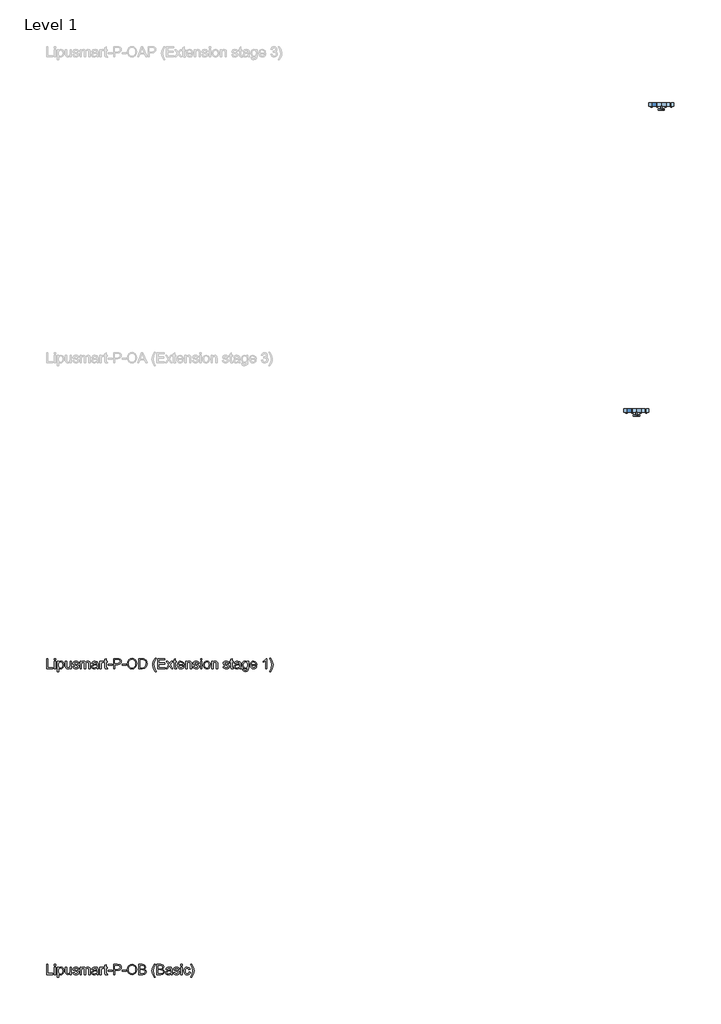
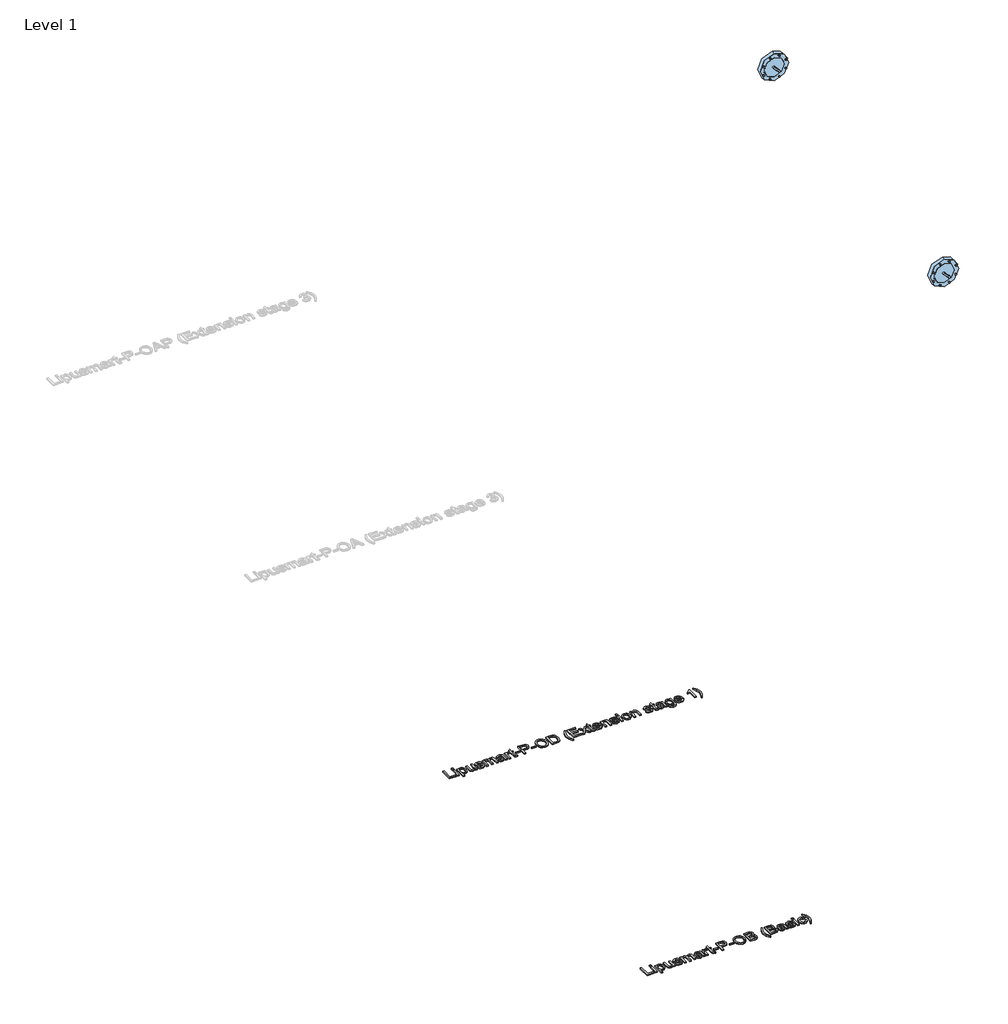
# One storey, part 1 of 3: 2 proxies, 2 windows.
"""IFC4 building model written with IfcOpenShell, lengths in millimetres."""

from ifc_helpers import new_model, si_unit, origin, origin_with_axes, place, context, project, spatial, polyline, outline, extrude, transform, mapped, element, save
from components import std_43f00bc0

model = new_model("IFC4")

# Units and contexts
model_context = context("Model", 3, world=origin())
ifc_project = project(units=[si_unit("LENGTHUNIT", "METRE", prefix="MILLI")], contexts=[model_context])

# Site, building, storey
site = spatial("IfcSite", under=ifc_project)
building = spatial("IfcBuilding", under=site)
storey = spatial("IfcBuildingStorey", under=building, Name="Level 1", Elevation=0.0)

# Proxies
placement = place(None, origin())
element("IfcBuildingElementProxy", 1, Name="100mm ACO", ObjectType="100mm ACO", at=placement, inside=storey, context=model_context, shape_type="SweptSolid", body=[
    extrude(outline(polyline([(-4134.7103315, 850.0), (-4197.6732944, 850.0), (-4197.6732944, 950.0), (-4184.7103315, 950.0), (-4184.7103315, 861.1111111), (-4134.7103315, 861.1111111), (-4134.7103315, 850.0)])), origin_with_axes(), (0.0, 0.0, 1.0), 10.0),
    extrude(outline(polyline([(-4108.7844056, 850.0), (-4121.7473685, 850.0), (-4121.7473685, 922.2222222), (-4108.7844056, 922.2222222), (-4108.7844056, 850.0)])), origin_with_axes(), (0.0, 0.0, 1.0), 10.0),
    extrude(outline(polyline([(-4108.7844056, 937.037037), (-4121.7473685, 937.037037), (-4121.7473685, 950.0), (-4108.7844056, 950.0), (-4108.7844056, 937.037037)])), origin_with_axes(), (0.0, 0.0, 1.0), 10.0),
    extrude(outline(polyline([(-4077.1727157, 913.5127315), (-4068.7164079, 921.4337384), (-4057.0482944, 924.0740741), (-4044.7219056, 921.484375), (-4035.2890352, 913.7152778), (-4029.2994519, 901.7867477), (-4027.3029241, 886.71875), (-4029.5598685, 870.8297164), (-4036.3307019, 858.5792824), (-4046.3856787, 850.7559317), (-4058.4950537, 848.1481481), (-4068.8683176, 850.2748843), (-4076.9557019, 856.6550926), (-4077.3029241, 822.2222222), (-4090.265887, 822.2222222), (-4090.265887, 922.2222222), (-4077.3029241, 922.2222222), (-4077.1727157, 913.5127315)]), holes=[polyline([(-4059.9128778, 857.4074074), (-4052.1401637, 859.233941), (-4045.8359102, 864.7135417), (-4041.6583928, 873.8100405), (-4040.265887, 886.4872685), (-4041.6077562, 898.5640914), (-4045.6333639, 907.4797454), (-4051.7495387, 912.9810475), (-4059.3631093, 914.8148148), (-4067.2443303, 912.7712674), (-4073.5847528, 906.640625), (-4077.7622701, 897.2547743), (-4079.1547759, 885.4456019), (-4077.8201405, 873.33261), (-4073.8162343, 864.5399306), (-4067.6711243, 859.1905382), (-4059.9128778, 857.4074074)])]), origin_with_axes(), (0.0, 0.0, 1.0), 10.0),
    extrude(outline(polyline([(-3953.22885, 850.0), (-3964.3399611, 850.0), (-3964.3399611, 860.5034722), (-3974.5830167, 851.2369792), (-3987.5459796, 848.1481481), (-4001.66635, 851.6637731), (-4010.3179704, 861.3425926), (-4012.4881093, 877.34375), (-4012.4881093, 922.2222222), (-3999.5251463, 922.2222222), (-3999.5251463, 881.25), (-3998.6281556, 867.1585648), (-3993.9406556, 860.15625), (-3984.9128778, 857.4074074), (-3972.1669287, 862.3263889), (-3967.6855919, 869.8784722), (-3966.191813, 882.6967593), (-3966.191813, 922.2222222), (-3953.22885, 922.2222222), (-3953.22885, 850.0)])), origin_with_axes(), (0.0, 0.0, 1.0), 10.0),
    extrude(outline(polyline([(-3893.9695907, 901.8518519), (-3898.7583639, 911.5740741), (-3909.8260722, 914.8148148), (-3921.1397296, 912.037037), (-3925.4510722, 903.9641204), (-3922.6009565, 896.8171296), (-3909.160563, 892.9398148), (-3891.437762, 888.7731481), (-3882.3955167, 882.4508102), (-3879.1547759, 871.1226852), (-3881.1657713, 862.1925637), (-3887.1987574, 854.7887731), (-3896.5954588, 849.8083044), (-3908.6976, 848.1481481), (-3921.1722817, 849.5442708), (-3930.5870676, 853.7326389), (-3936.9491914, 860.7060185), (-3940.265887, 870.4571759), (-3927.3029241, 872.2222222), (-3921.7039657, 861.0966435), (-3908.6976, 857.4074074), (-3896.4001463, 861.2413194), (-3892.1177389, 870.5729167), (-3894.0419287, 876.5480324), (-3898.8451694, 879.9189815), (-3912.4302389, 882.8125), (-3933.3648454, 890.625), (-3938.4140352, 903.2118056), (-3936.5440988, 911.4981192), (-3930.9342898, 918.1857639), (-3922.1633118, 922.6019965), (-3910.8098685, 924.0740741), (-3898.8777215, 922.7864583), (-3889.9331324, 918.9236111), (-3883.9761012, 912.4927662), (-3881.0066278, 903.5011574), (-3893.9695907, 901.8518519)])), origin_with_axes(), (0.0, 0.0, 1.0), 10.0),
    extrude(outline(polyline([(-3769.8955167, 850.0), (-3782.8584796, 850.0), (-3782.8584796, 896.7013889), (-3783.5095213, 905.5121528), (-3786.894938, 911.9936343), (-3795.41635, 914.8148148), (-3807.4244519, 909.6643519), (-3811.2221949, 902.9079861), (-3812.4881093, 892.9398148), (-3812.4881093, 850.0), (-3825.4510722, 850.0), (-3825.4510722, 898.0902778), (-3828.6339426, 911.255787), (-3837.6617204, 914.8148148), (-3850.1906556, 909.2447917), (-3853.8581903, 901.2478299), (-3855.0807019, 888.3969907), (-3855.0807019, 850.0), (-3868.0436648, 850.0), (-3868.0436648, 922.2222222), (-3856.9325537, 922.2222222), (-3856.9325537, 912.3263889), (-3847.5503199, 921.1371528), (-3834.9996833, 924.0740741), (-3821.8197065, 920.9056713), (-3814.3399611, 911.3715278), (-3804.8202852, 920.8984375), (-3792.2334796, 924.0740741), (-3782.4606208, 922.5549769), (-3775.4800074, 917.9976852), (-3771.2916394, 910.4021991), (-3769.8955167, 899.7685185), (-3769.8955167, 850.0)])), origin_with_axes(), (0.0, 0.0, 1.0), 10.0),
    extrude(outline(polyline([(-3688.4140352, 850.0), (-3701.3769981, 850.0), (-3705.0807019, 858.7384259), (-3717.5734681, 850.7957176), (-3731.035563, 848.1481481), (-3741.0218187, 849.5949074), (-3748.6426231, 853.9351852), (-3753.4711822, 860.6481481), (-3755.0807019, 869.212963), (-3753.5037343, 877.520978), (-3748.7728315, 884.2158565), (-3740.1429125, 889.1095197), (-3726.8688963, 892.0138889), (-3715.5263037, 893.75), (-3705.0807019, 896.2962963), (-3705.4134565, 904.3258102), (-3707.3521139, 909.2013889), (-3712.5170444, 913.2667824), (-3722.0945907, 914.8148148), (-3734.1750306, 911.6753472), (-3740.265887, 900.0), (-3753.22885, 901.5914352), (-3749.6734391, 911.400463), (-3743.000262, 918.431713), (-3733.2165525, 922.6634838), (-3720.3295444, 924.0740741), (-3701.0731787, 920.2112269), (-3693.5210954, 910.8940972), (-3692.1177389, 896.8460648), (-3692.1177389, 880.3240741), (-3691.5679704, 860.0694444), (-3688.4140352, 850.0)]), holes=[polyline([(-3705.0807019, 882.4074074), (-3705.0807019, 887.037037), (-3728.3590583, 881.712963), (-3738.6780687, 877.6548032), (-3742.1177389, 869.4155093), (-3738.4140352, 860.7928241), (-3727.7369519, 857.4074074), (-3711.9238731, 863.0787037), (-3706.7914947, 870.7465278), (-3705.0807019, 882.4074074)])]), origin_with_axes(), (0.0, 0.0, 1.0), 10.0),
    extrude(outline(polyline([(-3634.7103315, 921.2384259), (-3638.7612574, 912.962963), (-3647.2682019, 914.8148148), (-3653.0624727, 913.1872106), (-3657.2508407, 908.3043981), (-3660.6362574, 890.0752315), (-3660.6362574, 850.0), (-3673.5992204, 850.0), (-3673.5992204, 922.2222222), (-3662.4881093, 922.2222222), (-3662.4881093, 911.5162037), (-3655.5581324, 920.9346065), (-3647.1235259, 924.0740741), (-3634.7103315, 921.2384259)])), origin_with_axes(), (0.0, 0.0, 1.0), 10.0),
    extrude(outline(polyline([(-3599.5251463, 848.9872685), (-3608.6107944, 848.1481481), (-3620.1993361, 851.0271991), (-3624.640887, 858.3333333), (-3625.4510722, 870.6597222), (-3625.4510722, 912.962963), (-3634.7103315, 912.962963), (-3634.7103315, 922.2222222), (-3625.4510722, 922.2222222), (-3625.4510722, 940.5671296), (-3612.4881093, 948.1481481), (-3612.4881093, 922.2222222), (-3601.3769981, 922.2222222), (-3601.3769981, 912.962963), (-3612.4881093, 912.962963), (-3612.4881093, 868.0555556), (-3611.4464426, 859.837963), (-3606.1513037, 857.4074074), (-3601.1165815, 857.4074074), (-3599.5251463, 848.9872685)])), origin_with_axes(), (0.0, 0.0, 1.0), 10.0),
    extrude(outline(polyline([(-3555.0807019, 883.3333333), (-3593.9695907, 883.3333333), (-3593.9695907, 892.5925926), (-3555.0807019, 892.5925926), (-3555.0807019, 883.3333333)])), origin_with_axes(), (0.0, 0.0, 1.0), 10.0),
    extrude(outline(polyline([(-3540.265887, 950.0), (-3502.7080167, 950.0), (-3487.4013037, 949.1174769), (-3475.4800074, 944.53125), (-3467.1611417, 934.4762731), (-3464.3399611, 921.1805556), (-3466.5643535, 908.7492766), (-3473.2375306, 899.0596065), (-3484.8152215, 892.8204572), (-3501.7531556, 890.7407407), (-3527.3029241, 890.7407407), (-3527.3029241, 850.0), (-3540.265887, 850.0), (-3540.265887, 950.0)]), holes=[polyline([(-3527.3029241, 901.8518519), (-3501.2323222, 901.8518519), (-3483.2852736, 906.5899884), (-3478.7985115, 912.5126591), (-3477.3029241, 920.8043981), (-3480.4134565, 931.7853009), (-3488.0523454, 937.7170139), (-3501.5216741, 938.8888889), (-3527.3029241, 938.8888889), (-3527.3029241, 901.8518519)])]), origin_with_axes(), (0.0, 0.0, 1.0), 10.0),
    extrude(outline(polyline([(-3416.191813, 883.3333333), (-3455.0807019, 883.3333333), (-3455.0807019, 892.5925926), (-3416.191813, 892.5925926), (-3416.191813, 883.3333333)])), origin_with_axes(), (0.0, 0.0, 1.0), 10.0),
    extrude(outline(polyline([(-3358.6976, 951.8518519), (-3340.2080167, 948.2783565), (-3325.422137, 937.5578704), (-3315.7216162, 920.9852431), (-3312.4881093, 899.8553241), (-3315.7397007, 878.8158275), (-3325.494475, 862.3408565), (-3340.2984391, 851.6963252), (-3358.6976, 848.1481481), (-3377.5705745, 851.8265336), (-3392.3492204, 862.8616898), (-3401.8978315, 879.191985), (-3405.0807019, 898.755787), (-3401.8544287, 920.8369502), (-3392.1756093, 937.6591435), (-3377.3535606, 948.3036748), (-3358.6976, 951.8518519)]), holes=[polyline([(-3358.8133407, 859.2592593), (-3345.3729472, 861.9429977), (-3334.7392667, 869.994213), (-3327.802056, 882.8269676), (-3325.4510722, 899.8553241), (-3327.8056729, 917.2634549), (-3334.869475, 930.1359954), (-3345.4995387, 938.0895544), (-3358.5529241, 940.7407407), (-3371.8992782, 938.1438079), (-3382.6559333, 930.3530093), (-3389.7522875, 917.1947338), (-3392.1177389, 898.4953704), (-3389.8029241, 882.6135706), (-3382.8584796, 870.0954861), (-3372.2175653, 861.968316), (-3358.8133407, 859.2592593)])]), origin_with_axes(), (0.0, 0.0, 1.0), 10.0),
    extrude(outline(polyline([(-3239.1952852, 902.806713), (-3224.6987574, 893.5763889), (-3219.8955167, 878.8483796), (-3224.0332481, 863.5416667), (-3235.7954009, 853.2841435), (-3256.4695907, 850.0), (-3293.9695907, 850.0), (-3293.9695907, 950.0), (-3257.598063, 950.0), (-3242.5481498, 948.0034722), (-3232.6993361, 942.0138889), (-3227.2631382, 933.5865162), (-3225.4510722, 924.2766204), (-3228.8654241, 912.0659722), (-3239.1952852, 902.806713)]), holes=[polyline([(-3281.0066278, 907.4074074), (-3260.2022296, 907.4074074), (-3249.4383407, 908.1886574), (-3241.7560491, 912.3408565), (-3238.4140352, 922.8009259), (-3241.7849843, 933.7818287), (-3249.8289657, 938.1076389), (-3261.8226, 938.8888889), (-3281.0066278, 938.8888889), (-3281.0066278, 907.4074074)]), polyline([(-3281.0066278, 861.1111111), (-3256.35385, 861.1111111), (-3245.1523164, 862.2793692), (-3237.994475, 865.7841435), (-3232.8584796, 878.7037037), (-3234.2256671, 886.0930266), (-3238.3272296, 891.6521991), (-3245.9950537, 895.135272), (-3258.0610259, 896.2962963), (-3281.0066278, 896.2962963), (-3281.0066278, 861.1111111)])]), origin_with_axes(), (0.0, 0.0, 1.0), 10.0),
    extrude(outline(polyline([(-3130.7751463, 822.2222222), (-3140.0344056, 822.2222222), (-3157.8584796, 853.4577546), (-3164.3399611, 887.0081019), (-3162.6147007, 905.1468461), (-3157.4389194, 921.947338), (-3140.0344056, 951.8518519), (-3130.7751463, 951.8518519), (-3147.2103315, 917.3032407), (-3151.3769981, 887.1238426), (-3146.2265352, 854.6079282), (-3130.7751463, 822.2222222)])), origin_with_axes(), (0.0, 0.0, 1.0), 10.0),
    extrude(outline(polyline([(-3061.4175074, 902.806713), (-3046.9209796, 893.5763889), (-3042.1177389, 878.8483796), (-3046.2554704, 863.5416667), (-3058.0176231, 853.2841435), (-3078.691813, 850.0), (-3116.191813, 850.0), (-3116.191813, 950.0), (-3079.8202852, 950.0), (-3064.770372, 948.0034722), (-3054.9215583, 942.0138889), (-3049.4853604, 933.5865162), (-3047.6732944, 924.2766204), (-3051.0876463, 912.0659722), (-3061.4175074, 902.806713)]), holes=[polyline([(-3103.22885, 861.1111111), (-3078.5760722, 861.1111111), (-3067.3745387, 862.2793692), (-3060.2166972, 865.7841435), (-3055.0807019, 878.7037037), (-3056.4478894, 886.0930266), (-3060.5494519, 891.6521991), (-3068.2172759, 895.135272), (-3080.2832481, 896.2962963), (-3103.22885, 896.2962963), (-3103.22885, 861.1111111)]), polyline([(-3103.22885, 907.4074074), (-3082.4244519, 907.4074074), (-3071.660563, 908.1886574), (-3063.9782713, 912.3408565), (-3060.6362574, 922.8009259), (-3064.0072065, 933.7818287), (-3072.051188, 938.1076389), (-3084.0448222, 938.8888889), (-3103.22885, 938.8888889), (-3103.22885, 907.4074074)])]), origin_with_axes(), (0.0, 0.0, 1.0), 10.0),
    extrude(outline(polyline([(-2962.4881093, 850.0), (-2975.4510722, 850.0), (-2979.1547759, 858.7384259), (-2991.6475421, 850.7957176), (-3005.109637, 848.1481481), (-3015.0958928, 849.5949074), (-3022.7166972, 853.9351852), (-3027.5452562, 860.6481481), (-3029.1547759, 869.212963), (-3027.5778083, 877.520978), (-3022.8469056, 884.2158565), (-3014.2169866, 889.1095197), (-3000.9429704, 892.0138889), (-2989.6003778, 893.75), (-2979.1547759, 896.2962963), (-2979.4875306, 904.3258102), (-2981.426188, 909.2013889), (-2986.5911185, 913.2667824), (-2996.1686648, 914.8148148), (-3008.2491046, 911.6753472), (-3014.3399611, 900.0), (-3027.3029241, 901.5914352), (-3023.7475132, 911.400463), (-3017.0743361, 918.431713), (-3007.2906266, 922.6634838), (-2994.4036185, 924.0740741), (-2975.1472528, 920.2112269), (-2967.5951694, 910.8940972), (-2966.191813, 896.8460648), (-2966.191813, 880.3240741), (-2965.6420444, 860.0694444), (-2962.4881093, 850.0)]), holes=[polyline([(-2979.1547759, 882.4074074), (-2979.1547759, 887.037037), (-3002.4331324, 881.712963), (-3012.7521428, 877.6548032), (-3016.191813, 869.4155093), (-3012.4881093, 860.7928241), (-3001.8110259, 857.4074074), (-2985.9979472, 863.0787037), (-2980.8655687, 870.7465278), (-2979.1547759, 882.4074074)])]), origin_with_axes(), (0.0, 0.0, 1.0), 10.0),
    extrude(outline(polyline([(-2906.9325537, 901.8518519), (-2911.7213269, 911.5740741), (-2922.7890352, 914.8148148), (-2934.1026926, 912.037037), (-2938.4140352, 903.9641204), (-2935.5639194, 896.8171296), (-2922.1235259, 892.9398148), (-2904.400725, 888.7731481), (-2895.3584796, 882.4508102), (-2892.1177389, 871.1226852), (-2894.1287343, 862.1925637), (-2900.1617204, 854.7887731), (-2909.5584218, 849.8083044), (-2921.660563, 848.1481481), (-2934.1352447, 849.5442708), (-2943.5500306, 853.7326389), (-2949.9121544, 860.7060185), (-2953.22885, 870.4571759), (-2940.265887, 872.2222222), (-2934.6669287, 861.0966435), (-2921.660563, 857.4074074), (-2909.3631093, 861.2413194), (-2905.0807019, 870.5729167), (-2907.0048917, 876.5480324), (-2911.8081324, 879.9189815), (-2925.3932019, 882.8125), (-2946.3278083, 890.625), (-2951.3769981, 903.2118056), (-2949.5070618, 911.4981192), (-2943.8972528, 918.1857639), (-2935.1262748, 922.6019965), (-2923.7728315, 924.0740741), (-2911.8406845, 922.7864583), (-2902.8960954, 918.9236111), (-2896.9390641, 912.4927662), (-2893.9695907, 903.5011574), (-2906.9325537, 901.8518519)])), origin_with_axes(), (0.0, 0.0, 1.0), 10.0),
    extrude(outline(polyline([(-2866.191813, 937.037037), (-2879.1547759, 937.037037), (-2879.1547759, 950.0), (-2866.191813, 950.0), (-2866.191813, 937.037037)])), origin_with_axes(), (0.0, 0.0, 1.0), 10.0),
    extrude(outline(polyline([(-2866.191813, 850.0), (-2879.1547759, 850.0), (-2879.1547759, 922.2222222), (-2866.191813, 922.2222222), (-2866.191813, 850.0)])), origin_with_axes(), (0.0, 0.0, 1.0), 10.0),
    extrude(outline(polyline([(-2786.5621833, 874.4502315), (-2790.5914079, 862.6446759), (-2797.7601, 854.4849537), (-2807.0844634, 849.7323495), (-2817.5807019, 848.1481481), (-2831.8963847, 850.7378472), (-2842.5517667, 858.5069444), (-2849.1706903, 870.5512153), (-2851.3769981, 885.9664352), (-2846.3422759, 908.6516204), (-2833.7410028, 920.6163194), (-2817.8411185, 924.0740741), (-2798.3822065, 918.4172454), (-2791.8464715, 911.433015), (-2788.4140352, 901.7939815), (-2801.3769981, 900.0), (-2807.2797759, 911.0966435), (-2817.6964426, 914.8148148), (-2826.6518824, 912.9304109), (-2833.1478315, 907.2771991), (-2837.0974843, 898.2458044), (-2838.4140352, 886.2268519), (-2837.0938674, 873.9981192), (-2833.1333639, 864.916088), (-2826.6844345, 859.2845775), (-2817.8989889, 857.4074074), (-2805.2977157, 862.037037), (-2799.5251463, 875.9259259), (-2786.5621833, 874.4502315)])), origin_with_axes(), (0.0, 0.0, 1.0), 10.0),
    extrude(outline(polyline([(-2775.6825537, 951.8518519), (-2757.8584796, 920.6163194), (-2751.3769981, 887.0081019), (-2753.1022586, 868.9127604), (-2758.2780398, 852.1267361), (-2775.6825537, 822.2222222), (-2784.941813, 822.2222222), (-2768.5066278, 856.7418981), (-2764.3399611, 886.8634259), (-2769.4904241, 919.4444444), (-2784.941813, 951.8518519), (-2775.6825537, 951.8518519)])), origin_with_axes(), (0.0, 0.0, 1.0), 10.0),
])
element("IfcBuildingElementProxy", 2, Name="100mm ACO", ObjectType="100mm ACO", at=placement, inside=storey, context=model_context, shape_type="SweptSolid", body=[
    extrude(outline(polyline([(-4134.7103315, 3850.0), (-4197.6732944, 3850.0), (-4197.6732944, 3950.0), (-4184.7103315, 3950.0), (-4184.7103315, 3861.1111111), (-4134.7103315, 3861.1111111), (-4134.7103315, 3850.0)])), origin_with_axes(), (0.0, 0.0, 1.0), 10.0),
    extrude(outline(polyline([(-4108.7844056, 3850.0), (-4121.7473685, 3850.0), (-4121.7473685, 3922.2222222), (-4108.7844056, 3922.2222222), (-4108.7844056, 3850.0)])), origin_with_axes(), (0.0, 0.0, 1.0), 10.0),
    extrude(outline(polyline([(-4108.7844056, 3937.037037), (-4121.7473685, 3937.037037), (-4121.7473685, 3950.0), (-4108.7844056, 3950.0), (-4108.7844056, 3937.037037)])), origin_with_axes(), (0.0, 0.0, 1.0), 10.0),
    extrude(outline(polyline([(-4077.1727157, 3913.5127315), (-4068.7164079, 3921.4337384), (-4057.0482944, 3924.0740741), (-4044.7219056, 3921.484375), (-4035.2890352, 3913.7152778), (-4029.2994519, 3901.7867477), (-4027.3029241, 3886.71875), (-4029.5598685, 3870.8297164), (-4036.3307019, 3858.5792824), (-4046.3856787, 3850.7559317), (-4058.4950537, 3848.1481481), (-4068.8683176, 3850.2748843), (-4076.9557019, 3856.6550926), (-4077.3029241, 3822.2222222), (-4090.265887, 3822.2222222), (-4090.265887, 3922.2222222), (-4077.3029241, 3922.2222222), (-4077.1727157, 3913.5127315)]), holes=[polyline([(-4059.9128778, 3857.4074074), (-4052.1401637, 3859.233941), (-4045.8359102, 3864.7135417), (-4041.6583928, 3873.8100405), (-4040.265887, 3886.4872685), (-4041.6077562, 3898.5640914), (-4045.6333639, 3907.4797454), (-4051.7495387, 3912.9810475), (-4059.3631093, 3914.8148148), (-4067.2443303, 3912.7712674), (-4073.5847528, 3906.640625), (-4077.7622701, 3897.2547743), (-4079.1547759, 3885.4456019), (-4077.8201405, 3873.33261), (-4073.8162343, 3864.5399306), (-4067.6711243, 3859.1905382), (-4059.9128778, 3857.4074074)])]), origin_with_axes(), (0.0, 0.0, 1.0), 10.0),
    extrude(outline(polyline([(-3953.22885, 3850.0), (-3964.3399611, 3850.0), (-3964.3399611, 3860.5034722), (-3974.5830167, 3851.2369792), (-3987.5459796, 3848.1481481), (-4001.66635, 3851.6637731), (-4010.3179704, 3861.3425926), (-4012.4881093, 3877.34375), (-4012.4881093, 3922.2222222), (-3999.5251463, 3922.2222222), (-3999.5251463, 3881.25), (-3998.6281556, 3867.1585648), (-3993.9406556, 3860.15625), (-3984.9128778, 3857.4074074), (-3972.1669287, 3862.3263889), (-3967.6855919, 3869.8784722), (-3966.191813, 3882.6967593), (-3966.191813, 3922.2222222), (-3953.22885, 3922.2222222), (-3953.22885, 3850.0)])), origin_with_axes(), (0.0, 0.0, 1.0), 10.0),
    extrude(outline(polyline([(-3893.9695907, 3901.8518519), (-3898.7583639, 3911.5740741), (-3909.8260722, 3914.8148148), (-3921.1397296, 3912.037037), (-3925.4510722, 3903.9641204), (-3922.6009565, 3896.8171296), (-3909.160563, 3892.9398148), (-3891.437762, 3888.7731481), (-3882.3955167, 3882.4508102), (-3879.1547759, 3871.1226852), (-3881.1657713, 3862.1925637), (-3887.1987574, 3854.7887731), (-3896.5954588, 3849.8083044), (-3908.6976, 3848.1481481), (-3921.1722817, 3849.5442708), (-3930.5870676, 3853.7326389), (-3936.9491914, 3860.7060185), (-3940.265887, 3870.4571759), (-3927.3029241, 3872.2222222), (-3921.7039657, 3861.0966435), (-3908.6976, 3857.4074074), (-3896.4001463, 3861.2413194), (-3892.1177389, 3870.5729167), (-3894.0419287, 3876.5480324), (-3898.8451694, 3879.9189815), (-3912.4302389, 3882.8125), (-3933.3648454, 3890.625), (-3938.4140352, 3903.2118056), (-3936.5440988, 3911.4981192), (-3930.9342898, 3918.1857639), (-3922.1633118, 3922.6019965), (-3910.8098685, 3924.0740741), (-3898.8777215, 3922.7864583), (-3889.9331324, 3918.9236111), (-3883.9761012, 3912.4927662), (-3881.0066278, 3903.5011574), (-3893.9695907, 3901.8518519)])), origin_with_axes(), (0.0, 0.0, 1.0), 10.0),
    extrude(outline(polyline([(-3769.8955167, 3850.0), (-3782.8584796, 3850.0), (-3782.8584796, 3896.7013889), (-3783.5095213, 3905.5121528), (-3786.894938, 3911.9936343), (-3795.41635, 3914.8148148), (-3807.4244519, 3909.6643519), (-3811.2221949, 3902.9079861), (-3812.4881093, 3892.9398148), (-3812.4881093, 3850.0), (-3825.4510722, 3850.0), (-3825.4510722, 3898.0902778), (-3828.6339426, 3911.255787), (-3837.6617204, 3914.8148148), (-3850.1906556, 3909.2447917), (-3853.8581903, 3901.2478299), (-3855.0807019, 3888.3969907), (-3855.0807019, 3850.0), (-3868.0436648, 3850.0), (-3868.0436648, 3922.2222222), (-3856.9325537, 3922.2222222), (-3856.9325537, 3912.3263889), (-3847.5503199, 3921.1371528), (-3834.9996833, 3924.0740741), (-3821.8197065, 3920.9056713), (-3814.3399611, 3911.3715278), (-3804.8202852, 3920.8984375), (-3792.2334796, 3924.0740741), (-3782.4606208, 3922.5549769), (-3775.4800074, 3917.9976852), (-3771.2916394, 3910.4021991), (-3769.8955167, 3899.7685185), (-3769.8955167, 3850.0)])), origin_with_axes(), (0.0, 0.0, 1.0), 10.0),
    extrude(outline(polyline([(-3688.4140352, 3850.0), (-3701.3769981, 3850.0), (-3705.0807019, 3858.7384259), (-3717.5734681, 3850.7957176), (-3731.035563, 3848.1481481), (-3741.0218187, 3849.5949074), (-3748.6426231, 3853.9351852), (-3753.4711822, 3860.6481481), (-3755.0807019, 3869.212963), (-3753.5037343, 3877.520978), (-3748.7728315, 3884.2158565), (-3740.1429125, 3889.1095197), (-3726.8688963, 3892.0138889), (-3715.5263037, 3893.75), (-3705.0807019, 3896.2962963), (-3705.4134565, 3904.3258102), (-3707.3521139, 3909.2013889), (-3712.5170444, 3913.2667824), (-3722.0945907, 3914.8148148), (-3734.1750306, 3911.6753472), (-3740.265887, 3900.0), (-3753.22885, 3901.5914352), (-3749.6734391, 3911.400463), (-3743.000262, 3918.431713), (-3733.2165525, 3922.6634838), (-3720.3295444, 3924.0740741), (-3701.0731787, 3920.2112269), (-3693.5210954, 3910.8940972), (-3692.1177389, 3896.8460648), (-3692.1177389, 3880.3240741), (-3691.5679704, 3860.0694444), (-3688.4140352, 3850.0)]), holes=[polyline([(-3705.0807019, 3882.4074074), (-3705.0807019, 3887.037037), (-3728.3590583, 3881.712963), (-3738.6780687, 3877.6548032), (-3742.1177389, 3869.4155093), (-3738.4140352, 3860.7928241), (-3727.7369519, 3857.4074074), (-3711.9238731, 3863.0787037), (-3706.7914947, 3870.7465278), (-3705.0807019, 3882.4074074)])]), origin_with_axes(), (0.0, 0.0, 1.0), 10.0),
    extrude(outline(polyline([(-3634.7103315, 3921.2384259), (-3638.7612574, 3912.962963), (-3647.2682019, 3914.8148148), (-3653.0624727, 3913.1872106), (-3657.2508407, 3908.3043981), (-3660.6362574, 3890.0752315), (-3660.6362574, 3850.0), (-3673.5992204, 3850.0), (-3673.5992204, 3922.2222222), (-3662.4881093, 3922.2222222), (-3662.4881093, 3911.5162037), (-3655.5581324, 3920.9346065), (-3647.1235259, 3924.0740741), (-3634.7103315, 3921.2384259)])), origin_with_axes(), (0.0, 0.0, 1.0), 10.0),
    extrude(outline(polyline([(-3599.5251463, 3848.9872685), (-3608.6107944, 3848.1481481), (-3620.1993361, 3851.0271991), (-3624.640887, 3858.3333333), (-3625.4510722, 3870.6597222), (-3625.4510722, 3912.962963), (-3634.7103315, 3912.962963), (-3634.7103315, 3922.2222222), (-3625.4510722, 3922.2222222), (-3625.4510722, 3940.5671296), (-3612.4881093, 3948.1481481), (-3612.4881093, 3922.2222222), (-3601.3769981, 3922.2222222), (-3601.3769981, 3912.962963), (-3612.4881093, 3912.962963), (-3612.4881093, 3868.0555556), (-3611.4464426, 3859.837963), (-3606.1513037, 3857.4074074), (-3601.1165815, 3857.4074074), (-3599.5251463, 3848.9872685)])), origin_with_axes(), (0.0, 0.0, 1.0), 10.0),
    extrude(outline(polyline([(-3555.0807019, 3883.3333333), (-3593.9695907, 3883.3333333), (-3593.9695907, 3892.5925926), (-3555.0807019, 3892.5925926), (-3555.0807019, 3883.3333333)])), origin_with_axes(), (0.0, 0.0, 1.0), 10.0),
    extrude(outline(polyline([(-3540.265887, 3950.0), (-3502.7080167, 3950.0), (-3487.4013037, 3949.1174769), (-3475.4800074, 3944.53125), (-3467.1611417, 3934.4762731), (-3464.3399611, 3921.1805556), (-3466.5643535, 3908.7492766), (-3473.2375306, 3899.0596065), (-3484.8152215, 3892.8204572), (-3501.7531556, 3890.7407407), (-3527.3029241, 3890.7407407), (-3527.3029241, 3850.0), (-3540.265887, 3850.0), (-3540.265887, 3950.0)]), holes=[polyline([(-3527.3029241, 3901.8518519), (-3501.2323222, 3901.8518519), (-3483.2852736, 3906.5899884), (-3478.7985115, 3912.5126591), (-3477.3029241, 3920.8043981), (-3480.4134565, 3931.7853009), (-3488.0523454, 3937.7170139), (-3501.5216741, 3938.8888889), (-3527.3029241, 3938.8888889), (-3527.3029241, 3901.8518519)])]), origin_with_axes(), (0.0, 0.0, 1.0), 10.0),
    extrude(outline(polyline([(-3416.191813, 3883.3333333), (-3455.0807019, 3883.3333333), (-3455.0807019, 3892.5925926), (-3416.191813, 3892.5925926), (-3416.191813, 3883.3333333)])), origin_with_axes(), (0.0, 0.0, 1.0), 10.0),
    extrude(outline(polyline([(-3358.6976, 3951.8518519), (-3340.2080167, 3948.2783565), (-3325.422137, 3937.5578704), (-3315.7216162, 3920.9852431), (-3312.4881093, 3899.8553241), (-3315.7397007, 3878.8158275), (-3325.494475, 3862.3408565), (-3340.2984391, 3851.6963252), (-3358.6976, 3848.1481481), (-3377.5705745, 3851.8265336), (-3392.3492204, 3862.8616898), (-3401.8978315, 3879.191985), (-3405.0807019, 3898.755787), (-3401.8544287, 3920.8369502), (-3392.1756093, 3937.6591435), (-3377.3535606, 3948.3036748), (-3358.6976, 3951.8518519)]), holes=[polyline([(-3358.8133407, 3859.2592593), (-3345.3729472, 3861.9429977), (-3334.7392667, 3869.994213), (-3327.802056, 3882.8269676), (-3325.4510722, 3899.8553241), (-3327.8056729, 3917.2634549), (-3334.869475, 3930.1359954), (-3345.4995387, 3938.0895544), (-3358.5529241, 3940.7407407), (-3371.8992782, 3938.1438079), (-3382.6559333, 3930.3530093), (-3389.7522875, 3917.1947338), (-3392.1177389, 3898.4953704), (-3389.8029241, 3882.6135706), (-3382.8584796, 3870.0954861), (-3372.2175653, 3861.968316), (-3358.8133407, 3859.2592593)])]), origin_with_axes(), (0.0, 0.0, 1.0), 10.0),
    extrude(outline(polyline([(-3293.9695907, 3950.0), (-3259.941813, 3950.0), (-3244.5482944, 3949.0740741), (-3232.2219056, 3944.5746528), (-3221.9354472, 3934.7222222), (-3215.0054704, 3920.2980324), (-3212.4881093, 3900.5497685), (-3215.0778083, 3880.4144965), (-3222.8469056, 3864.2216435), (-3236.9311069, 3853.5554109), (-3258.4661185, 3850.0), (-3293.9695907, 3850.0), (-3293.9695907, 3950.0)]), holes=[polyline([(-3281.0066278, 3861.1111111), (-3259.6813963, 3861.1111111), (-3248.0349843, 3861.9502315), (-3237.6327852, 3866.478588), (-3228.9088269, 3878.5734954), (-3225.4510722, 3900.8391204), (-3226.7820907, 3915.1331019), (-3231.672137, 3927.2424769), (-3239.8463269, 3935.2430556), (-3248.8451694, 3938.3391204), (-3260.0864889, 3938.8888889), (-3281.0066278, 3938.8888889), (-3281.0066278, 3861.1111111)])]), origin_with_axes(), (0.0, 0.0, 1.0), 10.0),
    extrude(outline(polyline([(-3123.3677389, 3822.2222222), (-3132.6269981, 3822.2222222), (-3150.4510722, 3853.4577546), (-3156.9325537, 3887.0081019), (-3155.2072933, 3905.1468461), (-3150.031512, 3921.947338), (-3132.6269981, 3951.8518519), (-3123.3677389, 3951.8518519), (-3139.8029241, 3917.3032407), (-3143.9695907, 3887.1238426), (-3138.8191278, 3854.6079282), (-3123.3677389, 3822.2222222)])), origin_with_axes(), (0.0, 0.0, 1.0), 10.0),
    extrude(outline(polyline([(-3034.7103315, 3850.0), (-3108.7844056, 3850.0), (-3108.7844056, 3950.0), (-3036.5621833, 3950.0), (-3036.5621833, 3938.8888889), (-3095.8214426, 3938.8888889), (-3095.8214426, 3907.4074074), (-3040.265887, 3907.4074074), (-3040.265887, 3896.2962963), (-3095.8214426, 3896.2962963), (-3095.8214426, 3861.1111111), (-3034.7103315, 3861.1111111), (-3034.7103315, 3850.0)])), origin_with_axes(), (0.0, 0.0, 1.0), 10.0),
    extrude(outline(polyline([(-2958.7844056, 3850.0), (-2971.8341741, 3850.0), (-2992.0888037, 3878.2986111), (-3012.3434333, 3850.0), (-3025.4510722, 3850.0), (-2998.6860259, 3887.4131944), (-3023.5992204, 3922.2222222), (-3010.5494519, 3922.2222222), (-2992.1466741, 3896.556713), (-2973.7728315, 3922.2222222), (-2960.6362574, 3922.2222222), (-2985.578387, 3887.3842593), (-2958.7844056, 3850.0)])), origin_with_axes(), (0.0, 0.0, 1.0), 10.0),
    extrude(outline(polyline([(-2921.7473685, 3848.9872685), (-2930.8330167, 3848.1481481), (-2942.4215583, 3851.0271991), (-2946.8631093, 3858.3333333), (-2947.6732944, 3870.6597222), (-2947.6732944, 3912.962963), (-2956.9325537, 3912.962963), (-2956.9325537, 3922.2222222), (-2947.6732944, 3922.2222222), (-2947.6732944, 3940.5671296), (-2934.7103315, 3948.1481481), (-2934.7103315, 3922.2222222), (-2923.5992204, 3922.2222222), (-2923.5992204, 3912.962963), (-2934.7103315, 3912.962963), (-2934.7103315, 3868.0555556), (-2933.6686648, 3859.837963), (-2928.3735259, 3857.4074074), (-2923.3388037, 3857.4074074), (-2921.7473685, 3848.9872685)])), origin_with_axes(), (0.0, 0.0, 1.0), 10.0),
    extrude(outline(polyline([(-2847.6732944, 3883.3333333), (-2901.3769981, 3883.3333333), (-2899.3045155, 3872.2077546), (-2894.5916972, 3864.0625), (-2887.8100132, 3859.0711806), (-2879.5309333, 3857.4074074), (-2867.8555861, 3861.0966435), (-2860.6362574, 3872.2222222), (-2847.6732944, 3870.7175926), (-2852.0497412, 3861.0966435), (-2858.9869519, 3853.9930556), (-2868.2317435, 3849.609375), (-2879.5309333, 3848.1481481), (-2894.1178836, 3850.6546586), (-2905.1241046, 3858.1741898), (-2912.035997, 3870.0339988), (-2914.3399611, 3885.5613426), (-2912.1191856, 3901.099537), (-2905.4568593, 3913.3969907), (-2894.7580745, 3921.4048032), (-2880.4279241, 3924.0740741), (-2865.2080167, 3920.6163194), (-2852.7803546, 3908.8396991), (-2848.9500595, 3898.3036748), (-2847.6732944, 3883.3333333)]), holes=[polyline([(-2860.6362574, 3892.5925926), (-2862.7195907, 3902.7488426), (-2867.4649611, 3909.6064815), (-2880.7462111, 3914.8148148), (-2888.6021139, 3913.2667824), (-2894.9244519, 3908.6226852), (-2901.3769981, 3892.5925926), (-2860.6362574, 3892.5925926)])]), origin_with_axes(), (0.0, 0.0, 1.0), 10.0),
    extrude(outline(polyline([(-2773.5992204, 3850.0), (-2786.5621833, 3850.0), (-2786.5621833, 3894.9652778), (-2790.4250306, 3910.5613426), (-2801.1744519, 3914.8148148), (-2811.2004935, 3912.0949074), (-2817.9134565, 3904.4270833), (-2819.8955167, 3890.4224537), (-2819.8955167, 3850.0), (-2832.8584796, 3850.0), (-2832.8584796, 3922.2222222), (-2821.7473685, 3922.2222222), (-2821.7473685, 3912.181713), (-2811.8515352, 3921.1082176), (-2798.5992204, 3924.0740741), (-2787.2276926, 3922.0196759), (-2778.4313963, 3915.8709491), (-2774.4238731, 3907.1325231), (-2773.5992204, 3894.5891204), (-2773.5992204, 3850.0)])), origin_with_axes(), (0.0, 0.0, 1.0), 10.0),
    extrude(outline(polyline([(-2714.3399611, 3901.8518519), (-2719.1287343, 3911.5740741), (-2730.1964426, 3914.8148148), (-2741.5101, 3912.037037), (-2745.8214426, 3903.9641204), (-2742.9713269, 3896.8171296), (-2729.5309333, 3892.9398148), (-2711.8081324, 3888.7731481), (-2702.765887, 3882.4508102), (-2699.5251463, 3871.1226852), (-2701.5361417, 3862.1925637), (-2707.5691278, 3854.7887731), (-2716.9658292, 3849.8083044), (-2729.0679704, 3848.1481481), (-2741.5426521, 3849.5442708), (-2750.957438, 3853.7326389), (-2757.3195618, 3860.7060185), (-2760.6362574, 3870.4571759), (-2747.6732944, 3872.2222222), (-2742.0743361, 3861.0966435), (-2729.0679704, 3857.4074074), (-2716.7705167, 3861.2413194), (-2712.4881093, 3870.5729167), (-2714.4122991, 3876.5480324), (-2719.2155398, 3879.9189815), (-2732.8006093, 3882.8125), (-2753.7352157, 3890.625), (-2758.7844056, 3903.2118056), (-2756.9144692, 3911.4981192), (-2751.3046602, 3918.1857639), (-2742.5336822, 3922.6019965), (-2731.1802389, 3924.0740741), (-2719.2480919, 3922.7864583), (-2710.3035028, 3918.9236111), (-2704.3464715, 3912.4927662), (-2701.3769981, 3903.5011574), (-2714.3399611, 3901.8518519)])), origin_with_axes(), (0.0, 0.0, 1.0), 10.0),
    extrude(outline(polyline([(-2673.5992204, 3937.037037), (-2686.5621833, 3937.037037), (-2686.5621833, 3950.0), (-2673.5992204, 3950.0), (-2673.5992204, 3937.037037)])), origin_with_axes(), (0.0, 0.0, 1.0), 10.0),
    extrude(outline(polyline([(-2673.5992204, 3850.0), (-2686.5621833, 3850.0), (-2686.5621833, 3922.2222222), (-2673.5992204, 3922.2222222), (-2673.5992204, 3850.0)])), origin_with_axes(), (0.0, 0.0, 1.0), 10.0),
    extrude(outline(polyline([(-2625.4800074, 3924.0740741), (-2612.3036475, 3921.6796875), (-2601.594012, 3914.4965278), (-2594.4868072, 3902.9007523), (-2592.1177389, 3887.2685185), (-2594.6821197, 3868.9959491), (-2602.375262, 3857.0023148), (-2613.28021, 3850.3616898), (-2625.4800074, 3848.1481481), (-2638.0704299, 3850.4231771), (-2648.8741046, 3857.2482639), (-2656.3068303, 3869.0140336), (-2658.7844056, 3886.1111111), (-2656.390019, 3902.8284144), (-2649.2068593, 3914.6701389), (-2638.4863731, 3921.7230903), (-2625.4800074, 3924.0740741)]), holes=[polyline([(-2625.4800074, 3857.4074074), (-2616.6728604, 3859.4147859), (-2610.2745676, 3865.4369213), (-2605.0807019, 3886.5740741), (-2606.5491625, 3898.8570602), (-2610.9545444, 3907.6967593), (-2617.5228315, 3913.0353009), (-2625.4800074, 3914.8148148), (-2633.59271, 3913.0099826), (-2640.1067435, 3907.5954861), (-2644.3927678, 3898.6074942), (-2645.8214426, 3886.0821759), (-2644.3674495, 3873.6002604), (-2640.0054704, 3864.6267361), (-2633.4661185, 3859.2122396), (-2625.4800074, 3857.4074074)])]), origin_with_axes(), (0.0, 0.0, 1.0), 10.0),
    extrude(outline(polyline([(-2518.0436648, 3850.0), (-2531.0066278, 3850.0), (-2531.0066278, 3894.9652778), (-2534.869475, 3910.5613426), (-2545.6188963, 3914.8148148), (-2555.644938, 3912.0949074), (-2562.3579009, 3904.4270833), (-2564.3399611, 3890.4224537), (-2564.3399611, 3850.0), (-2577.3029241, 3850.0), (-2577.3029241, 3922.2222222), (-2566.191813, 3922.2222222), (-2566.191813, 3912.181713), (-2556.2959796, 3921.1082176), (-2543.0436648, 3924.0740741), (-2531.672137, 3922.0196759), (-2522.8758407, 3915.8709491), (-2518.8683176, 3907.1325231), (-2518.0436648, 3894.5891204), (-2518.0436648, 3850.0)])), origin_with_axes(), (0.0, 0.0, 1.0), 10.0),
    extrude(outline(polyline([(-2419.8955167, 3901.8518519), (-2424.6842898, 3911.5740741), (-2435.7519981, 3914.8148148), (-2447.0656556, 3912.037037), (-2451.3769981, 3903.9641204), (-2448.5268824, 3896.8171296), (-2435.0864889, 3892.9398148), (-2417.363688, 3888.7731481), (-2408.3214426, 3882.4508102), (-2405.0807019, 3871.1226852), (-2407.0916972, 3862.1925637), (-2413.1246833, 3854.7887731), (-2422.5213847, 3849.8083044), (-2434.6235259, 3848.1481481), (-2447.0982076, 3849.5442708), (-2456.5129935, 3853.7326389), (-2462.8751174, 3860.7060185), (-2466.191813, 3870.4571759), (-2453.22885, 3872.2222222), (-2447.6298917, 3861.0966435), (-2434.6235259, 3857.4074074), (-2422.3260722, 3861.2413194), (-2418.0436648, 3870.5729167), (-2419.9678546, 3876.5480324), (-2424.7710954, 3879.9189815), (-2438.3561648, 3882.8125), (-2459.2907713, 3890.625), (-2464.3399611, 3903.2118056), (-2462.4700248, 3911.4981192), (-2456.8602157, 3918.1857639), (-2448.0892377, 3922.6019965), (-2436.7357944, 3924.0740741), (-2424.8036475, 3922.7864583), (-2415.8590583, 3918.9236111), (-2409.9020271, 3912.4927662), (-2406.9325537, 3903.5011574), (-2419.8955167, 3901.8518519)])), origin_with_axes(), (0.0, 0.0, 1.0), 10.0),
    extrude(outline(polyline([(-2364.3399611, 3848.9872685), (-2373.4256093, 3848.1481481), (-2385.0141509, 3851.0271991), (-2389.4557019, 3858.3333333), (-2390.265887, 3870.6597222), (-2390.265887, 3912.962963), (-2399.5251463, 3912.962963), (-2399.5251463, 3922.2222222), (-2390.265887, 3922.2222222), (-2390.265887, 3940.5671296), (-2377.3029241, 3948.1481481), (-2377.3029241, 3922.2222222), (-2366.191813, 3922.2222222), (-2366.191813, 3912.962963), (-2377.3029241, 3912.962963), (-2377.3029241, 3868.0555556), (-2376.2612574, 3859.837963), (-2370.9661185, 3857.4074074), (-2365.9313963, 3857.4074074), (-2364.3399611, 3848.9872685)])), origin_with_axes(), (0.0, 0.0, 1.0), 10.0),
    extrude(outline(polyline([(-2290.265887, 3850.0), (-2303.22885, 3850.0), (-2306.9325537, 3858.7384259), (-2319.4253199, 3850.7957176), (-2332.8874148, 3848.1481481), (-2342.8736706, 3849.5949074), (-2350.494475, 3853.9351852), (-2355.323034, 3860.6481481), (-2356.9325537, 3869.212963), (-2355.3555861, 3877.520978), (-2350.6246833, 3884.2158565), (-2341.9947644, 3889.1095197), (-2328.7207481, 3892.0138889), (-2317.3781556, 3893.75), (-2306.9325537, 3896.2962963), (-2307.2653083, 3904.3258102), (-2309.2039657, 3909.2013889), (-2314.3688963, 3913.2667824), (-2323.9464426, 3914.8148148), (-2336.0268824, 3911.6753472), (-2342.1177389, 3900.0), (-2355.0807019, 3901.5914352), (-2351.525291, 3911.400463), (-2344.8521139, 3918.431713), (-2335.0684044, 3922.6634838), (-2322.1813963, 3924.0740741), (-2302.9250306, 3920.2112269), (-2295.3729472, 3910.8940972), (-2293.9695907, 3896.8460648), (-2293.9695907, 3880.3240741), (-2293.4198222, 3860.0694444), (-2290.265887, 3850.0)]), holes=[polyline([(-2306.9325537, 3882.4074074), (-2306.9325537, 3887.037037), (-2330.2109102, 3881.712963), (-2340.5299206, 3877.6548032), (-2343.9695907, 3869.4155093), (-2340.265887, 3860.7928241), (-2329.5888037, 3857.4074074), (-2313.775725, 3863.0787037), (-2308.6433465, 3870.7465278), (-2306.9325537, 3882.4074074)])]), origin_with_axes(), (0.0, 0.0, 1.0), 10.0),
    extrude(outline(polyline([(-2216.191813, 3860.6481481), (-2219.244475, 3838.0063657), (-2230.109637, 3826.3744213), (-2248.7728315, 3822.2222222), (-2259.9888326, 3823.6291956), (-2269.1576694, 3827.8501157), (-2275.2666104, 3835.2756076), (-2277.3029241, 3846.2962963), (-2264.3399611, 3844.2418981), (-2259.7682019, 3834.6788194), (-2248.5702852, 3831.4814815), (-2235.2601, 3835.1707176), (-2230.0951694, 3844.1550926), (-2229.1547759, 3858.7673611), (-2237.9293708, 3852.1918403), (-2248.7438963, 3850.0), (-2261.1353894, 3852.6114005), (-2270.8214426, 3860.4456019), (-2277.0714426, 3872.2583912), (-2279.1547759, 3886.8055556), (-2277.1727157, 3901.4467593), (-2271.2265352, 3913.4259259), (-2261.7791972, 3921.412037), (-2249.2936648, 3924.0740741), (-2238.2187227, 3921.6941551), (-2229.4151926, 3914.5543981), (-2229.1547759, 3922.2222222), (-2216.191813, 3922.2222222), (-2216.191813, 3860.6481481)]), holes=[polyline([(-2246.8052389, 3859.2592593), (-2239.593144, 3860.865162), (-2233.234637, 3865.6828704), (-2228.7858523, 3874.2766204), (-2227.3029241, 3887.2106481), (-2228.7171312, 3898.9981192), (-2232.9597528, 3907.6822917), (-2239.2857076, 3913.031684), (-2246.9499148, 3914.8148148), (-2254.6719924, 3912.9882813), (-2260.8243361, 3907.5086806), (-2264.8499437, 3898.8534433), (-2266.191813, 3887.5), (-2264.7848396, 3874.7829861), (-2260.5639194, 3866.0300926), (-2254.3103025, 3860.9519676), (-2246.8052389, 3859.2592593)])]), origin_with_axes(), (0.0, 0.0, 1.0), 10.0),
    extrude(outline(polyline([(-2134.7103315, 3883.3333333), (-2188.4140352, 3883.3333333), (-2186.3415525, 3872.2077546), (-2181.6287343, 3864.0625), (-2174.8470502, 3859.0711806), (-2166.5679704, 3857.4074074), (-2154.8926231, 3861.0966435), (-2147.6732944, 3872.2222222), (-2134.7103315, 3870.7175926), (-2139.0867782, 3861.0966435), (-2146.0239889, 3853.9930556), (-2155.2687806, 3849.609375), (-2166.5679704, 3848.1481481), (-2181.1549206, 3850.6546586), (-2192.1611417, 3858.1741898), (-2199.073034, 3870.0339988), (-2201.3769981, 3885.5613426), (-2199.1562227, 3901.099537), (-2192.4938963, 3913.3969907), (-2181.7951116, 3921.4048032), (-2167.4649611, 3924.0740741), (-2152.2450537, 3920.6163194), (-2139.8173917, 3908.8396991), (-2135.9870965, 3898.3036748), (-2134.7103315, 3883.3333333)]), holes=[polyline([(-2147.6732944, 3892.5925926), (-2149.7566278, 3902.7488426), (-2154.5019981, 3909.6064815), (-2167.7832481, 3914.8148148), (-2175.6391509, 3913.2667824), (-2181.9614889, 3908.6226852), (-2188.4140352, 3892.5925926), (-2147.6732944, 3892.5925926)])]), origin_with_axes(), (0.0, 0.0, 1.0), 10.0),
    extrude(outline(polyline([(-2036.5621833, 3850.0), (-2049.5251463, 3850.0), (-2049.5251463, 3927.7777778), (-2073.5992204, 3912.962963), (-2073.5992204, 3922.2222222), (-2055.3266509, 3933.9409722), (-2043.9695907, 3948.1481481), (-2036.5621833, 3948.1481481), (-2036.5621833, 3850.0)])), origin_with_axes(), (0.0, 0.0, 1.0), 10.0),
    extrude(outline(polyline([(-1999.7566278, 3951.8518519), (-1981.9325537, 3920.6163194), (-1975.4510722, 3887.0081019), (-1977.1763326, 3868.9127604), (-1982.3521139, 3852.1267361), (-1999.7566278, 3822.2222222), (-2009.015887, 3822.2222222), (-1992.5807019, 3856.7418981), (-1988.4140352, 3886.8634259), (-1993.5644981, 3919.4444444), (-2009.015887, 3951.8518519), (-1999.7566278, 3951.8518519)])), origin_with_axes(), (0.0, 0.0, 1.0), 10.0),
])

# Windows
std_shape = std_43f00bc0(model_context)
element("IfcWindow", 3, ObjectType="ZZZ_do not use_ME_PE_viewing window Ecojet_ACO : std", at=placement, inside=storey, context=model_context, shape_type="MappedRepresentation", body=[
    mapped(std_shape, transform((1587.5, 6375.0, 1130.5), x_axis=(0.0, 0.0, 1.0), y_axis=(-1.0, 0.0, 0.0), z_axis=(0.0, -1.0, 0.0))),
])
element("IfcWindow", 4, ObjectType="ZZZ_do not use_ME_PE_viewing window Ecojet_ACO : std", at=placement, inside=storey, context=model_context, shape_type="MappedRepresentation", body=[
    mapped(std_shape, transform((1832.5, 9375.0, 1130.5), x_axis=(0.0, 0.0, 1.0), y_axis=(-1.0, 0.0, 0.0), z_axis=(0.0, -1.0, 0.0))),
])

save(model, "model.ifc")
